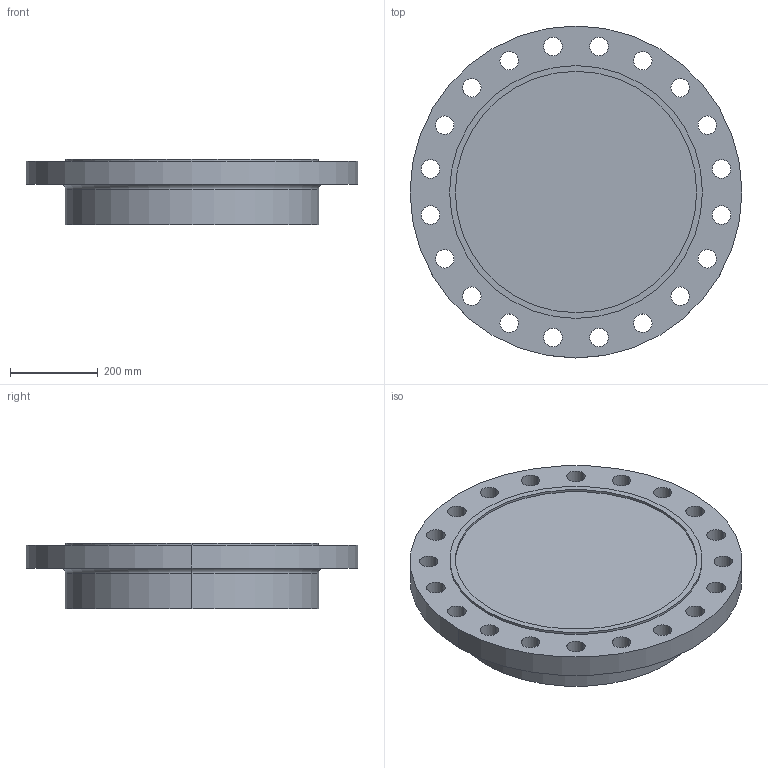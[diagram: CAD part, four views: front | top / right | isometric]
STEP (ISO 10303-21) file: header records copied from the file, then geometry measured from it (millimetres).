
FILE_DESCRIPTION (( 'STEP AP214' ), '1' );
FILE_NAME ('PN40 DN500 Type 21(i) - Type C Face.STEP', '2018-12-29T04:26:40', ( '' ), ( '' ), 'SwSTEP 2.0', 'SolidWorks 2019', '' );
FILE_SCHEMA (( 'AUTOMOTIVE_DESIGN' ));
Length unit declared in the file: millimetre
Products named in the file (1): PN40 DN500 Type 21(i) - Type C Face
Bounding box: 755 x 755 x 150 mm (x, y, z)
Volume: 46045640.1 mm3; surface area: 1276487.9 mm2
Topology: 1 solids, 1 shells, 55 faces, 148 edges, 98 vertices
Faces by surface type: cylinder 48, plane 5, torus 2
Entity records: 1900 total; most frequent: DIRECTION 360, CARTESIAN_POINT 302, ORIENTED_EDGE 296, AXIS2_PLACEMENT_3D 156, EDGE_CURVE 148, CIRCLE 100, EDGE_LOOP 98, VERTEX_POINT 98
